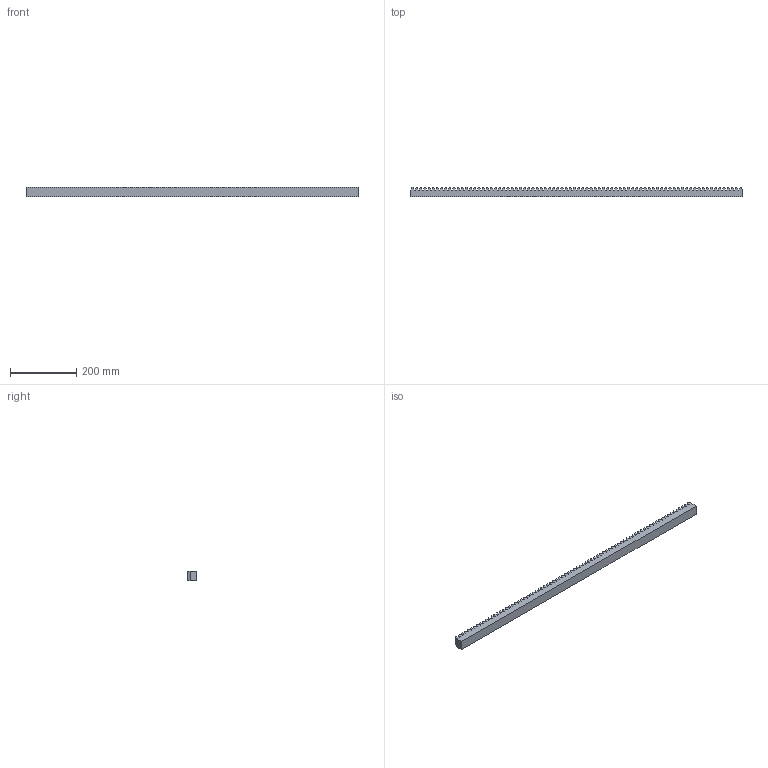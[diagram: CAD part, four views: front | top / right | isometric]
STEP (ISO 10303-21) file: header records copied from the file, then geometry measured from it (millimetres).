
FILE_DESCRIPTION(/* description */ (''),/* implementation_level */ '2;1');
FILE_NAME(/* name */ 'C:\Users\stagistaCAD\Desktop\30939100.stp',/* time_stamp */ '2018-06-14T15:28:19+02:00',/* author */ ('stagistacad'),/* organization */ (''),/* preprocessor_version */ 'ST-DEVELOPER v15.6',/* originating_system */ 'Autodesk Inventor 2015',/* authorisation */ '');
FILE_SCHEMA (('AUTOMOTIVE_DESIGN { 1 0 10303 214 3 1 1 }'));
Length unit declared in the file: millimetre
Products named in the file (1): 30939100
Bounding box: 1004.6 x 30 x 30 mm (x, y, z)
Volume: 776455.8 mm3; surface area: 143566.2 mm2
Topology: 1 solids, 1 shells, 325 faces, 969 edges, 646 vertices
Faces by surface type: plane 325
Entity records: 10707 total; most frequent: CARTESIAN_POINT 1941, ORIENTED_EDGE 1938, DIRECTION 1621, LINE 969, VECTOR 969, EDGE_CURVE 969, VERTEX_POINT 646, AXIS2_PLACEMENT_3D 326
